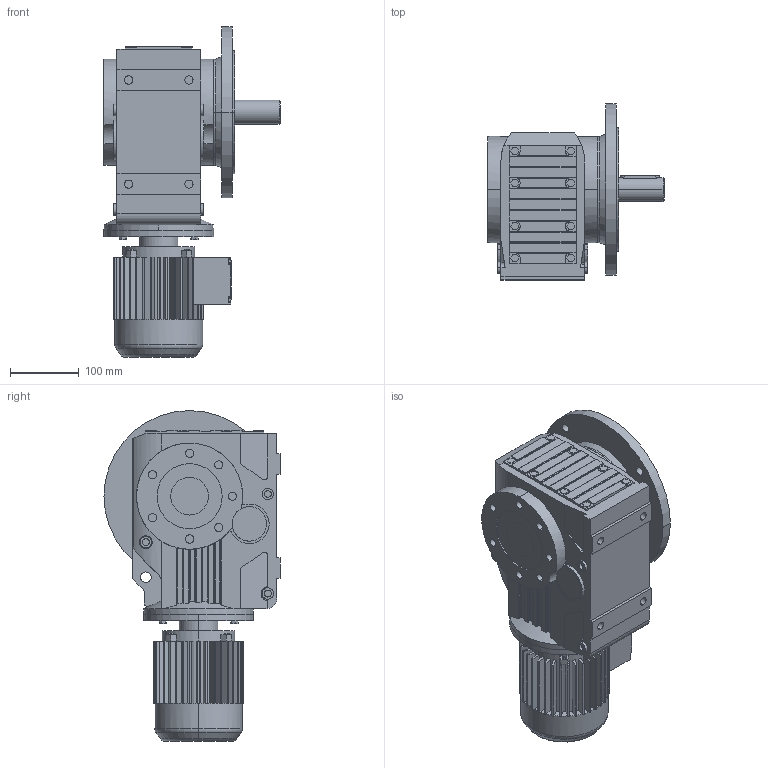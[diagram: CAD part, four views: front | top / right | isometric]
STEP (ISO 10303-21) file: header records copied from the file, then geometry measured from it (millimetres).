
FILE_DESCRIPTION(('Open CASCADE Model'),'2;1');
FILE_NAME('Open CASCADE Shape Model','2018-09-09T16:10:21',('Author'),( 'Open CASCADE'),'Open CASCADE STEP processor 6.3','Open CASCADE 6.3' ,'Unknown');
FILE_SCHEMA(('AUTOMOTIVE_DESIGN_CC2 { 1 2 10303 214 -1 1 5 4 }'));
Length unit declared in the file: millimetre
Products named in the file (5): 49_KF57DR63-A; KA37‵107_57.step; 萇儂_160-DR63-185-240-132-105.step; す瑩妗陑粣K_57.step; 楊擘K_57.step
Assembly tree (4 placements, depth 2):
  49_KF57DR63-A
    KA37‵107_57.step
    萇儂_160-DR63-185-240-132-105.step
    す瑩妗陑粣K_57.step
    楊擘K_57.step
Bounding box: 257 x 257 x 483 mm (x, y, z)
Volume: 10071499.5 mm3; surface area: 663182.1 mm2
Topology: 4 solids, 4 shells, 883 faces, 2288 edges, 1484 vertices
Faces by surface type: plane 566, cylinder 297, cone 16, torus 4
Entity records: 65794 total; most frequent: CARTESIAN_POINT 22945, DIRECTION 7156, ORIENTED_EDGE 4572, PCURVE 4572, DEFINITIONAL_REPRESENTATION 4572, LINE 3661, VECTOR 3661, EDGE_CURVE 2286
